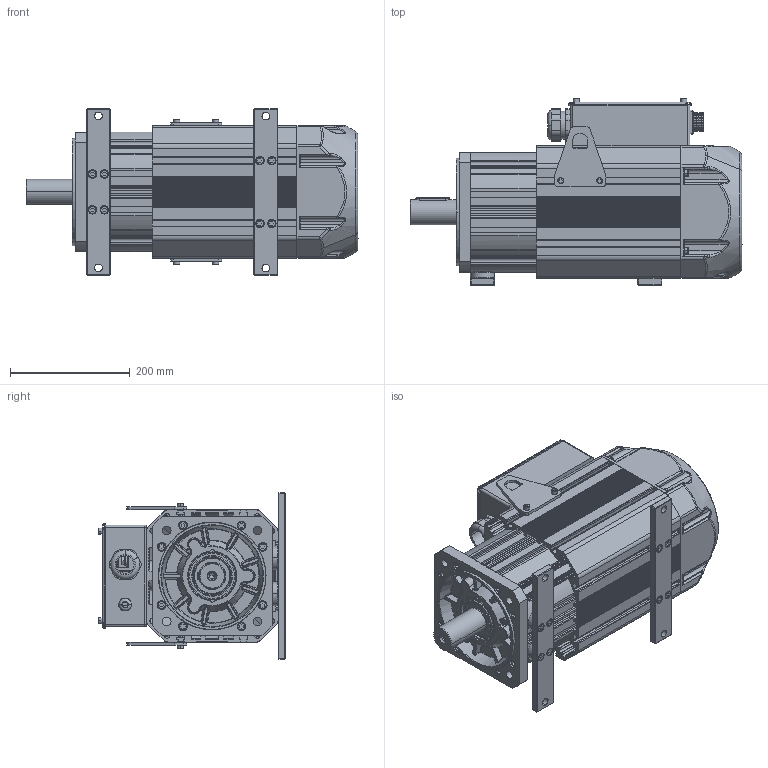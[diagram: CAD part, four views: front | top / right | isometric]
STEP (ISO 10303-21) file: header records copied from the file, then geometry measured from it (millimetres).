
FILE_DESCRIPTION((''),'2;1');
FILE_NAME('80NBZ__SW0001','2025-08-25T08:50:37',('0109502'),(''),'CREO PARAMETRIC BY PTC INC, 2019080','CREO PARAMETRIC BY PTC INC, 2019080','');
FILE_SCHEMA(('CONFIG_CONTROL_DESIGN'));
Products named in the file (1): 80NBZ__SW0001
Bounding box: 555 x 312.5 x 278.25 mm (x, y, z)
Surface area: 1724390.7 mm2 (no closed solid volume)
Topology: 0 solids, 201 shells, 3402 faces, 11606 edges, 8234 vertices
Faces by surface type: plane 1527, cylinder 1170, torus 272, bspline 215, cone 188, sphere 30
Entity records: 141959 total; most frequent: CARTESIAN_POINT 41707, DIRECTION 21200, ORIENTED_EDGE 19234, EDGE_CURVE 11586, VERTEX_POINT 8234, AXIS2_PLACEMENT_3D 7234, VECTOR 6732, LINE 6732
